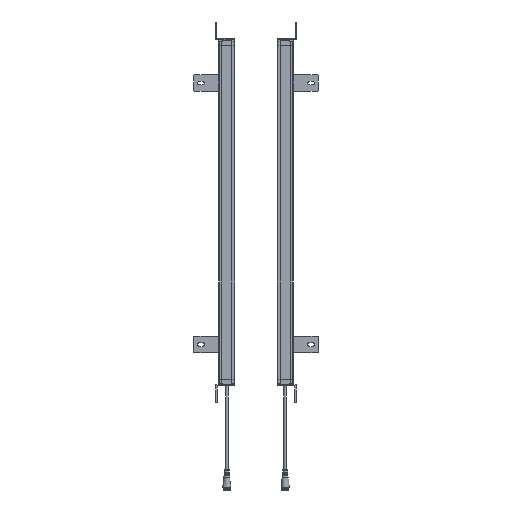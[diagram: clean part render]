
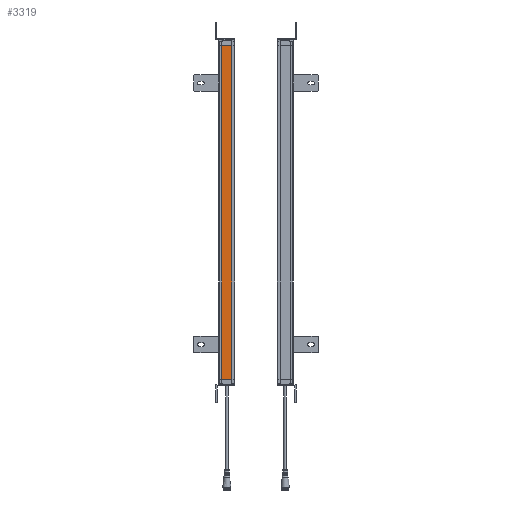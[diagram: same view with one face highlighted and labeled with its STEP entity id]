
A CAD part, left-side view. The second image highlights one B-rep face of the part: STEP entity #3319.
In plain terms, the highlighted planar face has unit normal (-1, 0, 0).
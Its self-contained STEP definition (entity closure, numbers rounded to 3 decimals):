
#1795=FACE_OUTER_BOUND('',#5986,.T.);
#3319=ADVANCED_FACE('',(#1795),#4749,.T.);
#4749=PLANE('',#29857);
#5986=EDGE_LOOP('',(#9184,#9185,#9186,#9187));
#9184=ORIENTED_EDGE('',*,*,#19383,.F.);
#9185=ORIENTED_EDGE('',*,*,#19072,.T.);
#9186=ORIENTED_EDGE('',*,*,#19385,.T.);
#9187=ORIENTED_EDGE('',*,*,#19386,.F.);
#16145=VERTEX_POINT('',#43699);
#16146=VERTEX_POINT('',#43701);
#16357=VERTEX_POINT('',#44323);
#16358=VERTEX_POINT('',#44327);
#19072=EDGE_CURVE('',#16146,#16145,#24663,.T.);
#19383=EDGE_CURVE('',#16146,#16357,#24884,.T.);
#19385=EDGE_CURVE('',#16145,#16358,#24886,.T.);
#19386=EDGE_CURVE('',#16357,#16358,#24887,.T.);
#24663=LINE('',#43700,#27142);
#24884=LINE('',#44322,#27363);
#24886=LINE('',#44326,#27365);
#24887=LINE('',#44328,#27366);
#27142=VECTOR('',#33404,1.);
#27363=VECTOR('',#34005,1.);
#27365=VECTOR('',#34009,1.);
#27366=VECTOR('',#34010,1.);
#29857=AXIS2_PLACEMENT_3D('',#44329,#34011,#34012);
#33404=DIRECTION('',(0.,1.,0.));
#34005=DIRECTION('',(0.,0.,-1.));
#34009=DIRECTION('',(0.,0.,-1.));
#34010=DIRECTION('',(0.,1.,0.));
#34011=DIRECTION('',(-1.,0.,0.));
#34012=DIRECTION('',(0.,1.,0.));
#43699=CARTESIAN_POINT('',(50.4,-5.5,558.059));
#43700=CARTESIAN_POINT('',(50.4,-5.5,558.059));
#43701=CARTESIAN_POINT('',(50.4,-23.5,558.059));
#44322=CARTESIAN_POINT('',(50.4,-23.5,103.059));
#44323=CARTESIAN_POINT('',(50.4,-23.5,-41.941));
#44326=CARTESIAN_POINT('',(50.4,-5.5,103.059));
#44327=CARTESIAN_POINT('',(50.4,-5.5,-41.941));
#44328=CARTESIAN_POINT('',(50.4,-23.5,-41.941));
#44329=CARTESIAN_POINT('',(50.4,-5.5,-61.941));
